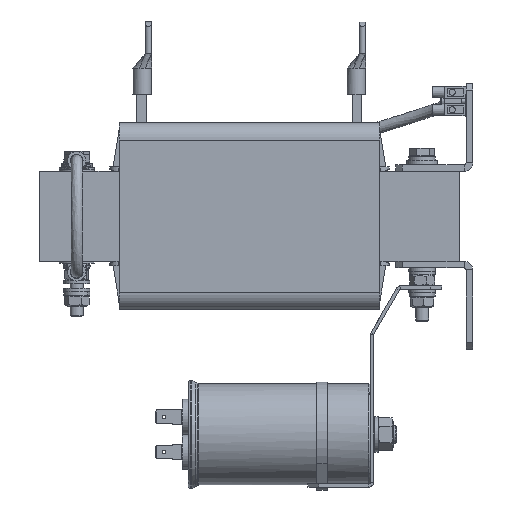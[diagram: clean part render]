
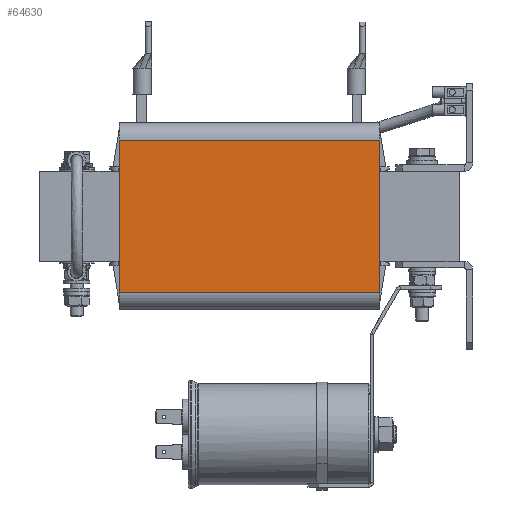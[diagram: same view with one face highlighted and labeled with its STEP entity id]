
A CAD part, left-side view. The second image highlights one B-rep face of the part: STEP entity #64630.
In plain terms, the highlighted planar face has unit normal (-1, 0, 0).
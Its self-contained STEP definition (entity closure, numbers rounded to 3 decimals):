
#3705=PLANE('',#69162);
#6911=FACE_OUTER_BOUND('',#10551,.T.);
#10551=EDGE_LOOP('',(#56535,#56536,#56537,#56538));
#16739=LINE('',#95622,#23588);
#16742=LINE('',#95635,#23591);
#18655=LINE('',#104812,#25504);
#18656=LINE('',#104814,#25505);
#23588=VECTOR('',#77926,10.);
#23591=VECTOR('',#77945,10.);
#25504=VECTOR('',#83772,10.);
#25505=VECTOR('',#83775,10.);
#29367=VERTEX_POINT('',#95619);
#29368=VERTEX_POINT('',#95621);
#29369=VERTEX_POINT('',#95632);
#29370=VERTEX_POINT('',#95634);
#36834=EDGE_CURVE('',#29367,#29368,#16739,.T.);
#36841=EDGE_CURVE('',#29369,#29370,#16742,.T.);
#40023=EDGE_CURVE('',#29369,#29368,#18655,.T.);
#40024=EDGE_CURVE('',#29370,#29367,#18656,.T.);
#56535=ORIENTED_EDGE('',*,*,#40024,.F.);
#56536=ORIENTED_EDGE('',*,*,#36841,.F.);
#56537=ORIENTED_EDGE('',*,*,#40023,.T.);
#56538=ORIENTED_EDGE('',*,*,#36834,.F.);
#64630=ADVANCED_FACE('',(#6911),#3705,.T.);
#69162=AXIS2_PLACEMENT_3D('',#104813,#83773,#83774);
#77926=DIRECTION('',(0.,0.,-1.));
#77945=DIRECTION('',(0.,0.,1.));
#83772=DIRECTION('',(0.,-1.,0.));
#83773=DIRECTION('center_axis',(-1.,0.,0.));
#83774=DIRECTION('ref_axis',(0.,0.,1.));
#83775=DIRECTION('',(0.,-1.,0.));
#95619=CARTESIAN_POINT('',(-119.3,-59.25,34.64));
#95621=CARTESIAN_POINT('',(-119.3,-59.25,-34.64));
#95622=CARTESIAN_POINT('',(-119.3,-59.25,34.64));
#95632=CARTESIAN_POINT('',(-119.3,59.25,-34.64));
#95634=CARTESIAN_POINT('',(-119.3,59.25,34.64));
#95635=CARTESIAN_POINT('',(-119.3,59.25,34.64));
#104812=CARTESIAN_POINT('',(-119.3,0.,-34.64));
#104813=CARTESIAN_POINT('Origin',(-119.3,0.,-34.64));
#104814=CARTESIAN_POINT('',(-119.3,0.,34.64));
